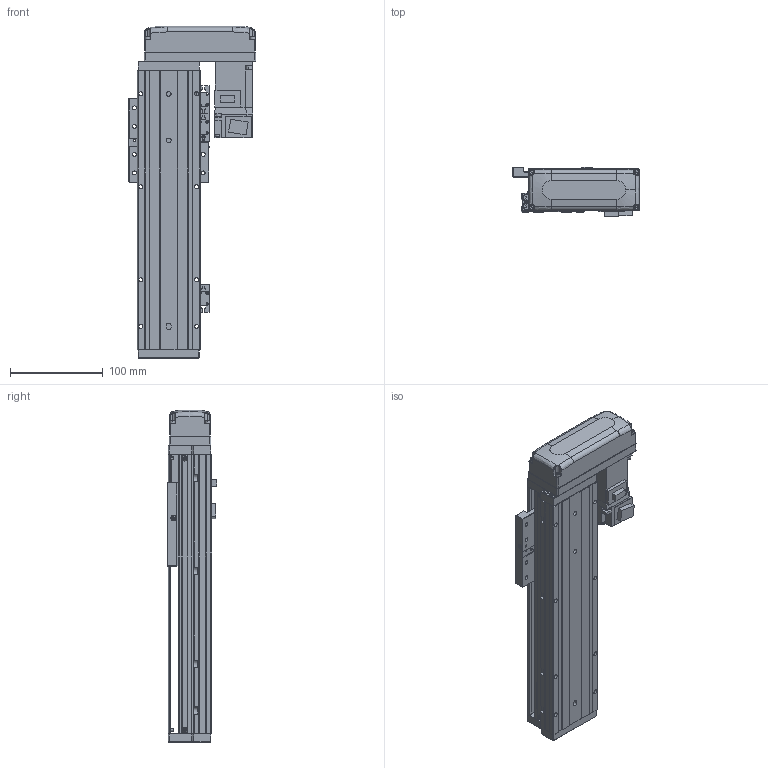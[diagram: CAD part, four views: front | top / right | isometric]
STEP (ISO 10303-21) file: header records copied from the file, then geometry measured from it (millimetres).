
FILE_DESCRIPTION (( 'STEP AP203' ), '1' );
FILE_NAME ('KTHAL60-150-BL-M10-C4L.step', '2022-03-19T08:37:18', ( '微软用户' ), ( '微软中国' ), 'SwSTEP 2.0', 'SolidWorks 2020', '' );
FILE_SCHEMA (( 'CONFIG_CONTROL_DESIGN' ));
Length unit declared in the file: millimetre
Products named in the file (18): GBT 70.1-M3℅6; GBT 70.3-M3℅6; CTHA60-016; EE_SX911P_R; HG-KR13（三菱）; KTHA60-001_300; CTHA60-017; CTHA60-015-2_CTHA60-015-2; KTHLA60-002; CTHA60-021; CTHA60-033; KTHA60-004; GBT 70.1-M4×16; GBT 70.1-M3×15; KTHA60-005; GBT77-2000M3-3; KTHAL60-150-BL-M10-C4L; GB¨uT 70.2-M3¡Á5_M3¡Á6
Assembly tree (51 placements, depth 2):
  KTHAL60-150-BL-M10-C4L
    KTHA60-001_300
    KTHLA60-002
    KTHA60-004
    KTHA60-005
    GB¨uT 70.2-M3¡Á5_M3¡Á6  x5
    GBT 70.3-M3℅6  x4
    EE_SX911P_R  x3
    CTHA60-017  x3
    CTHA60-021  x2
    GBT 70.1-M4×16  x10
    GBT77-2000M3-3  x6
    GBT 70.1-M3℅6  x6
    CTHA60-016
    HG-KR13（三菱）
    CTHA60-015-2_CTHA60-015-2
    CTHA60-033
    GBT 70.1-M3×15  x4
Bounding box: 137 x 53.3 x 357 mm (x, y, z)
Volume: 960979.1 mm3; surface area: 236382.3 mm2
Topology: 54 solids, 54 shells, 2235 faces, 5275 edges, 3233 vertices
Faces by surface type: plane 1276, cylinder 541, cone 280, torus 98, bspline 26, sphere 14
Entity records: 38055 total; most frequent: CARTESIAN_POINT 7224, DIRECTION 5913, ORIENTED_EDGE 5694, EDGE_CURVE 2847, AXIS2_PLACEMENT_3D 1989, VECTOR 1935, LINE 1935, VERTEX_POINT 1782
